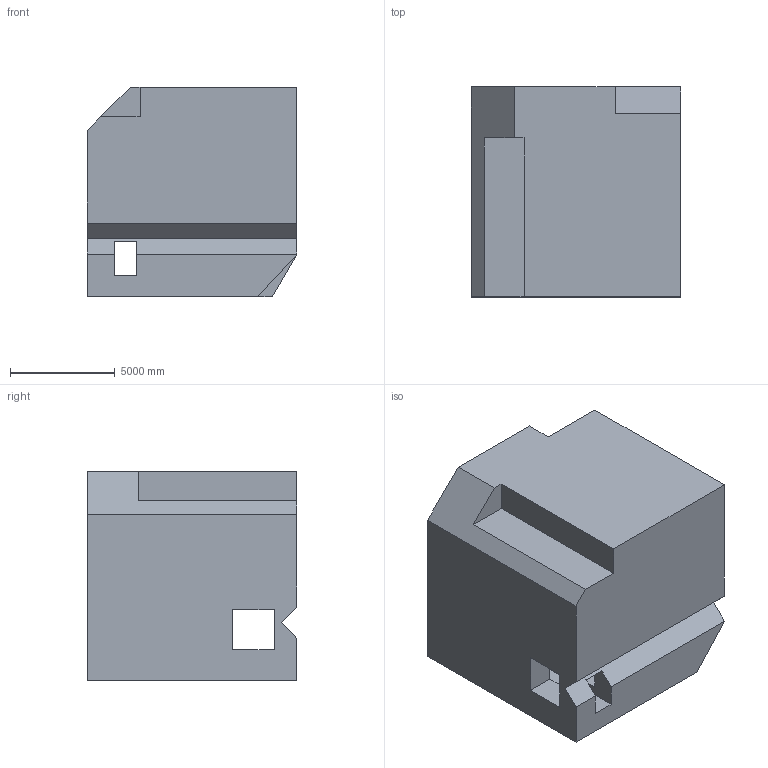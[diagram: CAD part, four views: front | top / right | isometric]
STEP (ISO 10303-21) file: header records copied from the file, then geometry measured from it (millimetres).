
FILE_DESCRIPTION (( 'STEP AP203' ), '1' );
FILE_NAME ('749.STEP', '2022-08-04T15:46:44', ( 'user' ), ( '' ), 'SwSTEP 2.0', 'SolidWorks 2021', '' );
FILE_SCHEMA (( 'CONFIG_CONTROL_DESIGN' ));
Length unit declared in the file: centimetre
Products named in the file (1): 749
Bounding box: 10000 x 10000 x 10000 mm (x, y, z)
Volume: 888087022046.4 mm3; surface area: 685969001.5 mm2
Topology: 1 solids, 1 shells, 28 faces, 88 edges, 58 vertices
Faces by surface type: plane 28
Entity records: 1045 total; most frequent: ORIENTED_EDGE 176, CARTESIAN_POINT 175, DIRECTION 146, LINE 88, VECTOR 88, EDGE_CURVE 88, VERTEX_POINT 58, EDGE_LOOP 30
